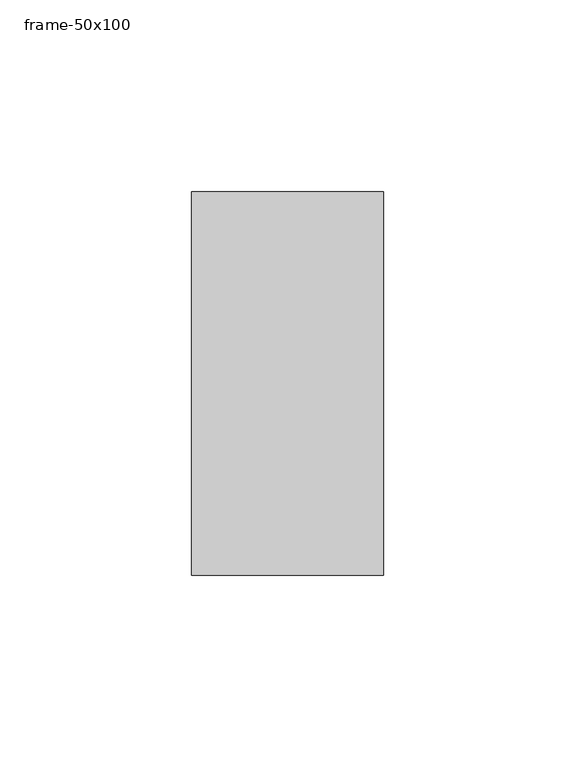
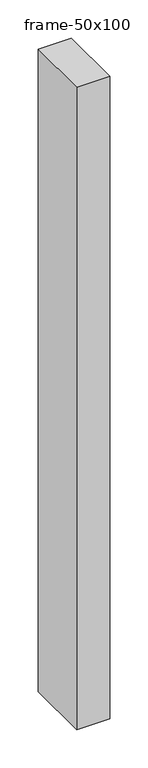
"""IFC4 building model written with IfcOpenShell, lengths in millimetres: member geometry, 長方形マリオン : frame-50x100."""

from ifc_helpers import new_model, si_unit, frame, origin, place, context, project, spatial, polyline, outline, extrude, source, transform, mapped, element, save


def frame_50x100_6c4cdc7a(model_context):
    return source(origin(), model_context, "Body", "SweptSolid", [
        extrude(outline(polyline([(0.0, 50.0), (0.0, -50.0), (-50.0, -50.0), (-50.0, 50.0), (0.0, 50.0)])), frame((0.0, 0.0, -1025.0000003), z_axis=(0.0, 0.0, 1.0), x_axis=(1.0, 0.0, 0.0)), (0.0, 0.0, 1.0), 1025.0000003),
    ])


if __name__ == "__main__":
    model = new_model("IFC4")
    model_context = context("Model", 3, world=origin())
    ifc_project = project(units=[si_unit("LENGTHUNIT", "METRE", prefix="MILLI")], contexts=[model_context])
    site = spatial("IfcSite", under=ifc_project)
    building = spatial("IfcBuilding", under=site)
    placement = place(None, origin())
    frame_50x100_shape = frame_50x100_6c4cdc7a(model_context)
    element("IfcMember", 1, ObjectType="長方形マリオン : frame-50x100", at=placement, inside=building, context=model_context, shape_type="MappedRepresentation", body=[
        mapped(frame_50x100_shape, transform((0.0, 0.0, 0.0), x_axis=(1.0, 0.0, 0.0), y_axis=(0.0, 1.0, 0.0), z_axis=(0.0, 0.0, 1.0))),
    ])
    save(model, "model.ifc")
